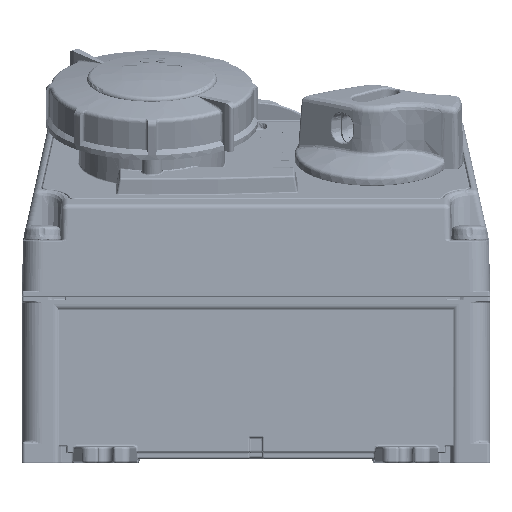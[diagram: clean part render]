
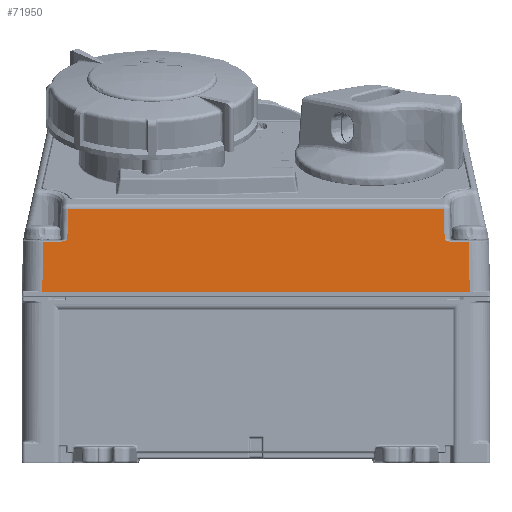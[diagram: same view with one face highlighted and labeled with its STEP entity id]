
A CAD part, front view. The second image highlights one B-rep face of the part: STEP entity #71950.
In plain terms, the highlighted planar face has unit normal (0, -1, 0.018).
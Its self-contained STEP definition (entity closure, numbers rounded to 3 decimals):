
#9310=DIRECTION('',(-1.,0.,0.));
#9311=VECTOR('',#9310,223.);
#9312=CARTESIAN_POINT('',(224.,0.,82.));
#9313=LINE('8704',#9312,#9311);
#9314=DIRECTION('',(1.,0.,0.));
#9315=VECTOR('',#9314,8.749);
#9316=CARTESIAN_POINT('',(1.001,0.001,82.059));
#9317=LINE('8766',#9316,#9315);
#9333=CARTESIAN_POINT('',(9.75,0.001,82.059));
#9432=CARTESIAN_POINT('',(1.001,0.001,82.059));
#9439=DIRECTION('',(-0.016,-0.017,-1.));
#9440=VECTOR('',#9439,0.059);
#9441=CARTESIAN_POINT('',(1.001,0.001,82.059));
#9442=LINE('8731',#9441,#9440);
#9991=CARTESIAN_POINT('',(215.25,0.001,82.059));
#10012=DIRECTION('',(1.,0.,0.));
#10013=VECTOR('',#10012,8.749);
#10014=CARTESIAN_POINT('',(215.25,0.001,
82.059));
#10015=LINE('8768',#10014,#10013);
#10026=CARTESIAN_POINT('',(223.999,0.001,
82.059));
#10047=DIRECTION('',(-0.016,0.017,1.));
#10048=VECTOR('',#10047,0.059);
#10049=CARTESIAN_POINT('',(224.,0.,82.));
#10050=LINE('8733',#10049,#10048);
#22048=DIRECTION('',(-0.017,0.017,1.));
#22049=VECTOR('',#22048,24.457);
#22050=CARTESIAN_POINT('',(215.25,0.001,
82.059));
#22051=LINE('8773',#22050,#22049);
#22079=CARTESIAN_POINT('',(214.824,0.428,
106.509));
#22171=CARTESIAN_POINT('',(203.146,0.445,
107.491));
#22180=CARTESIAN_POINT('',(203.146,0.445,
107.491));
#22181=CARTESIAN_POINT('',(203.34,0.443,
107.369));
#22182=CARTESIAN_POINT('',(203.71,0.439,
107.137));
#22183=CARTESIAN_POINT('',(204.235,0.434,
106.851));
#22184=CARTESIAN_POINT('',(204.726,0.43,
106.649));
#22185=CARTESIAN_POINT('',(205.179,0.428,
106.532));
#22186=CARTESIAN_POINT('',(205.45,0.428,
106.509));
#22187=CARTESIAN_POINT('',(205.578,0.428,
106.509));
#22193=DIRECTION('',(1.,0.,0.));
#22194=VECTOR('',#22193,9.246);
#22195=CARTESIAN_POINT('',(205.578,0.428,
106.509));
#22196=LINE('8367',#22195,#22194);
#22202=DIRECTION('',(-0.009,0.017,1.));
#22203=VECTOR('',#22202,14.45);
#22204=CARTESIAN_POINT('',(203.146,0.445,
107.491));
#22205=LINE('8453',#22204,#22203);
#22224=DIRECTION('',(1.,0.,0.));
#22225=VECTOR('',#22224,181.04);
#22226=CARTESIAN_POINT('',(21.98,0.697,
121.939));
#22227=LINE('8154',#22226,#22225);
#22431=DIRECTION('',(-0.009,-0.017,-1.));
#22432=VECTOR('',#22431,14.45);
#22433=CARTESIAN_POINT('',(21.98,0.697,
121.939));
#22434=LINE('8454',#22433,#22432);
#22465=CARTESIAN_POINT('',(21.854,0.445,
107.491));
#22467=CARTESIAN_POINT('',(19.422,0.428,
106.509));
#22468=CARTESIAN_POINT('',(19.55,0.428,
106.509));
#22469=CARTESIAN_POINT('',(19.821,0.428,
106.532));
#22470=CARTESIAN_POINT('',(20.274,0.43,
106.649));
#22471=CARTESIAN_POINT('',(20.765,0.434,
106.851));
#22472=CARTESIAN_POINT('',(21.29,0.439,
107.137));
#22473=CARTESIAN_POINT('',(21.66,0.443,
107.369));
#22474=CARTESIAN_POINT('',(21.854,0.445,
107.491));
#22485=DIRECTION('',(1.,0.,0.));
#22486=VECTOR('',#22485,9.246);
#22487=CARTESIAN_POINT('',(10.176,0.428,
106.509));
#22488=LINE('8410',#22487,#22486);
#22525=CARTESIAN_POINT('',(10.176,0.428,
106.509));
#22541=DIRECTION('',(-0.017,-0.017,-1.));
#22542=VECTOR('',#22541,24.457);
#22543=CARTESIAN_POINT('',(10.176,0.428,
106.509));
#22544=LINE('8772',#22543,#22542);
#49169=CARTESIAN_POINT('',(203.02,0.697,
121.939));
#49170=VERTEX_POINT('',#49169);
#49173=CARTESIAN_POINT('',(21.98,0.697,
121.939));
#49174=VERTEX_POINT('',#49173);
#49325=VERTEX_POINT('',#22079);
#49333=CARTESIAN_POINT('',(205.578,0.428,
106.509));
#49334=VERTEX_POINT('',#49333);
#49335=VERTEX_POINT('',#22171);
#49392=VERTEX_POINT('',#22525);
#49395=CARTESIAN_POINT('',(19.422,0.428,
106.509));
#49396=VERTEX_POINT('',#49395);
#49397=VERTEX_POINT('',#22465);
#49626=CARTESIAN_POINT('',(224.,0.,82.));
#49627=CARTESIAN_POINT('',(1.,0.,82.));
#49628=VERTEX_POINT('',#49626);
#49629=VERTEX_POINT('',#49627);
#49661=VERTEX_POINT('',#9432);
#49664=VERTEX_POINT('',#10026);
#49675=VERTEX_POINT('',#9333);
#49676=VERTEX_POINT('',#9991);
#71916=CARTESIAN_POINT('',(0.,0.733,124.));
#71917=DIRECTION('',(0.,-1.,0.017));
#71918=DIRECTION('',(0.,-0.017,-1.));
#71919=AXIS2_PLACEMENT_3D('',#71916,#71917,#71918);
#71920=PLANE('2169',#71919);
#71922=ORIENTED_EDGE('8766',*,*,#71921,.T.);
#71924=ORIENTED_EDGE('8772',*,*,#71923,.F.);
#71926=ORIENTED_EDGE('8410',*,*,#71925,.T.);
#71928=ORIENTED_EDGE('8412',*,*,#71927,.T.);
#71930=ORIENTED_EDGE('8454',*,*,#71929,.F.);
#71932=ORIENTED_EDGE('8154',*,*,#71931,.T.);
#71934=ORIENTED_EDGE('8453',*,*,#71933,.F.);
#71936=ORIENTED_EDGE('8369',*,*,#71935,.T.);
#71938=ORIENTED_EDGE('8367',*,*,#71937,.T.);
#71940=ORIENTED_EDGE('8773',*,*,#71939,.F.);
#71942=ORIENTED_EDGE('8768',*,*,#71941,.T.);
#71944=ORIENTED_EDGE('8733',*,*,#71943,.F.);
#71945=ORIENTED_EDGE('8704',*,*,#71902,.T.);
#71947=ORIENTED_EDGE('8731',*,*,#71946,.F.);
#71948=EDGE_LOOP('2169',(#71922,#71924,#71926,#71928,#71930,#71932,#71934,
#71936,#71938,#71940,#71942,#71944,#71945,#71947));
#71949=FACE_OUTER_BOUND('2169',#71948,.F.);
#22188=B_SPLINE_CURVE_WITH_KNOTS('8369',3,(#22180,#22181,#22182,#22183,#22184,
#22185,#22186,#22187),.UNSPECIFIED.,.F.,.F.,(4,1,1,1,1,4),(0.,0.2,0.4,
0.6,0.8,1.),.UNSPECIFIED.);
#22475=B_SPLINE_CURVE_WITH_KNOTS('8412',3,(#22467,#22468,#22469,#22470,#22471,
#22472,#22473,#22474),.UNSPECIFIED.,.F.,.F.,(4,1,1,1,1,4),(0.,0.2,0.4,
0.6,0.8,1.),.UNSPECIFIED.);
#71902=EDGE_CURVE('8704',#49628,#49629,#9313,.T.);
#71921=EDGE_CURVE('8766',#49661,#49675,#9317,.T.);
#71923=EDGE_CURVE('8772',#49392,#49675,#22544,.T.);
#71925=EDGE_CURVE('8410',#49392,#49396,#22488,.T.);
#71927=EDGE_CURVE('8412',#49396,#49397,#22475,.T.);
#71929=EDGE_CURVE('8454',#49174,#49397,#22434,.T.);
#71931=EDGE_CURVE('8154',#49174,#49170,#22227,.T.);
#71933=EDGE_CURVE('8453',#49335,#49170,#22205,.T.);
#71935=EDGE_CURVE('8369',#49335,#49334,#22188,.T.);
#71937=EDGE_CURVE('8367',#49334,#49325,#22196,.T.);
#71939=EDGE_CURVE('8773',#49676,#49325,#22051,.T.);
#71941=EDGE_CURVE('8768',#49676,#49664,#10015,.T.);
#71943=EDGE_CURVE('8733',#49628,#49664,#10050,.T.);
#71946=EDGE_CURVE('8731',#49661,#49629,#9442,.T.);
#71950=ADVANCED_FACE('2169',(#71949),#71920,.T.);
